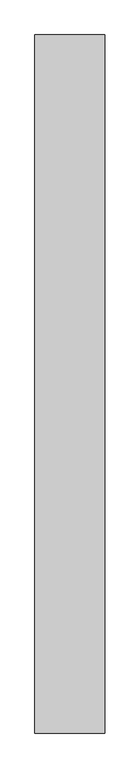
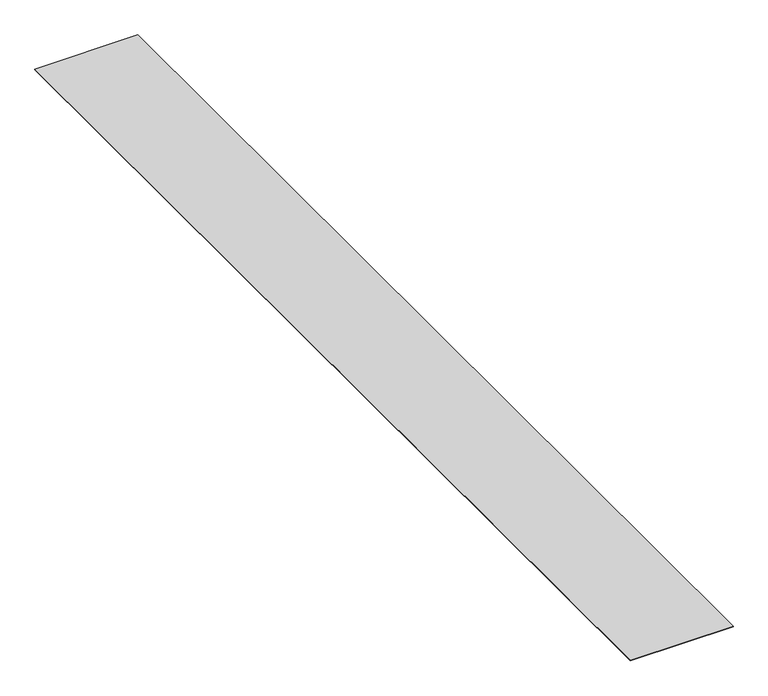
"""IFC4 building model written with IfcOpenShell, lengths in millimetres: proxy geometry, AQUAPANEL Tape (10 cm) : AQUAPANEL Tape (10 cm)."""

from ifc_helpers import new_model, si_unit, origin, origin_with_axes, place, context, project, spatial, polyline, outline, extrude, source, transform, mapped, element, save


def generic_models_8a9cbf60(model_context):
    return source(origin(), model_context, "Body", "SweptSolid", [
        extrude(outline(polyline([(17211.4421741, 18350.9190852), (17211.4421741, 16350.9190852), (17011.4421741, 16350.9190852), (17011.4421741, 18350.9190852), (17211.4421741, 18350.9190852)])), origin_with_axes(), (0.0, 0.0, 1.0), 1.0),
    ])


if __name__ == "__main__":
    model = new_model("IFC4")
    model_context = context("Model", 3, world=origin())
    ifc_project = project(units=[si_unit("LENGTHUNIT", "METRE", prefix="MILLI")], contexts=[model_context])
    site = spatial("IfcSite", under=ifc_project)
    building = spatial("IfcBuilding", under=site)
    placement = place(None, origin())
    generic_models_shape = generic_models_8a9cbf60(model_context)
    element("IfcBuildingElementProxy", 1, Name="AQUAPANEL Tape (10 cm) : AQUAPANEL Tape (10 cm)", ObjectType="AQUAPANEL Tape (10 cm) : AQUAPANEL Tape (10 cm)", at=placement, inside=building, context=model_context, shape_type="MappedRepresentation", body=[
        mapped(generic_models_shape, transform((0.0, 0.0, 0.0), x_axis=(1.0, 0.0, 0.0), y_axis=(0.0, 1.0, 0.0), z_axis=(0.0, 0.0, 1.0))),
    ])
    save(model, "model.ifc")
